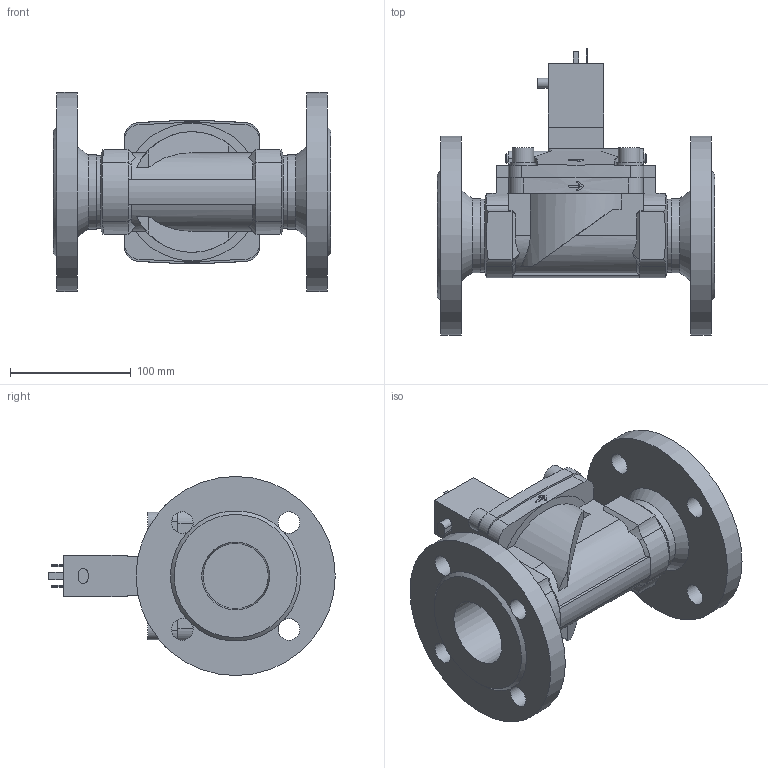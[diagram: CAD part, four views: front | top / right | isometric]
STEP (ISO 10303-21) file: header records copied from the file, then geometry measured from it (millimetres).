
FILE_DESCRIPTION( ( 'STEP AP214' ), '1' );
FILE_NAME( 'p:/temp/worker_8/temp/app_55_02018110102392682129875192d056f_000000_00_00_000000/format_0/5282-134569-Servo-assisted_2_2_way_diaphragm_valve.stp', '2018-11-01T01:39:28', ( '' ), ( '' ), ' ', 'PARTsolutions', ' ' );
FILE_SCHEMA( ( 'AUTOMOTIVE_DESIGN { 1 0 10303 214 1 1 1 1 }' ) );
Length unit declared in the file: millimetre
Products named in the file (4): 5282-134569-Servo-assisted 2/2 way diaphragm valve; HI_5282d-50VAOO2-2/2-Wege-Magnetventil_Deckel; HI_5282g-FD0150VA -2/2-Wege-Magnetventil_Gehaeuse; HI_0331-VA-3/2-way-Solenoid-Valve or 4-way-combination
Assembly tree (3 placements, depth 2):
  5282-134569-Servo-assisted 2/2 way diaphragm valve
    HI_5282d-50VAOO2-2/2-Wege-Magnetventil_Deckel
    HI_5282g-FD0150VA -2/2-Wege-Magnetventil_Gehaeuse
    HI_0331-VA-3/2-way-Solenoid-Valve or 4-way-combination
Bounding box: 230 x 237.3 x 165 mm (x, y, z)
Volume: 1820251.4 mm3; surface area: 234068.9 mm2
Topology: 3 solids, 3 shells, 281 faces, 744 edges, 488 vertices
Faces by surface type: plane 171, cylinder 84, cone 26
Full cylindrical faces by diameter (mm): 7.8 x2, 18 x12, 21.1 x4, 56.3 x2, 60.3 x2, 61.4 x2, 165 x2
Entity records: 11080 total; most frequent: CARTESIAN_POINT 1947, DIRECTION 1410, ORIENTED_EDGE 1380, EDGE_CURVE 690, AXIS2_PLACEMENT_3D 501, VERTEX_POINT 470, LINE 408, VECTOR 408
